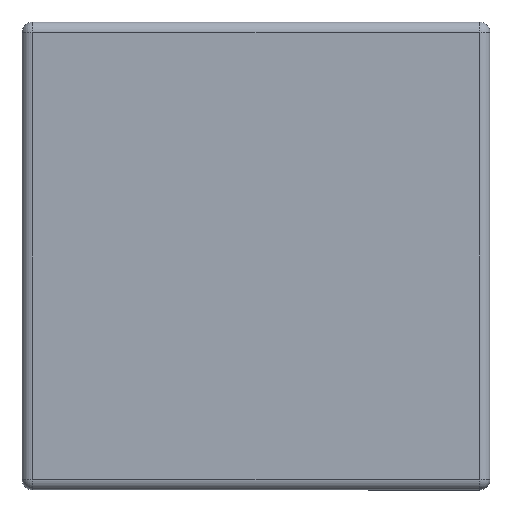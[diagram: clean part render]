
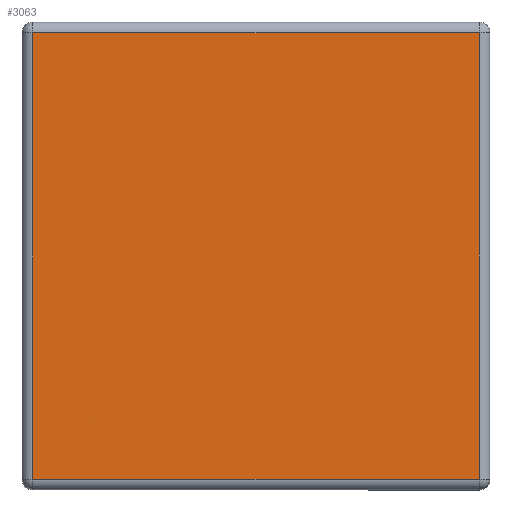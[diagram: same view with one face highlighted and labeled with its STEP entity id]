
A CAD part, left-side view. The second image highlights one B-rep face of the part: STEP entity #3063.
In plain terms, the highlighted planar face has unit normal (-1, 0, 0).
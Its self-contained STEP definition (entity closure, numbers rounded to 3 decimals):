
#27 = EDGE_LOOP ( 'NONE', ( #4802, #4930, #5082, #1816 ) ) ;
#102 = CARTESIAN_POINT ( 'NONE',  ( 0., 42., 44. ) ) ;
#230 = CARTESIAN_POINT ( 'NONE',  ( 0., 42., -42. ) ) ;
#434 = DIRECTION ( 'NONE',  ( 1., 0., 0. ) ) ;
#457 = PLANE ( 'NONE',  #3267 ) ;
#664 = CARTESIAN_POINT ( 'NONE',  ( 0., -42., -42. ) ) ;
#933 = DIRECTION ( 'NONE',  ( 0., 0., -1. ) ) ;
#1031 = CARTESIAN_POINT ( 'NONE',  ( 0., -42., 44. ) ) ;
#1255 = VECTOR ( 'NONE', #2149, 1000. ) ;
#1638 = EDGE_CURVE ( 'NONE', #3405, #2983, #4970, .T. ) ;
#1816 = ORIENTED_EDGE ( 'NONE', *, *, #1638, .T. ) ;
#2149 = DIRECTION ( 'NONE',  ( 0., 1., 0. ) ) ;
#2808 = FACE_OUTER_BOUND ( 'NONE', #27, .T. ) ;
#2983 = VERTEX_POINT ( 'NONE', #230 ) ;
#3063 = ADVANCED_FACE ( 'NONE', ( #2808 ), #457, .F. ) ;
#3218 = CARTESIAN_POINT ( 'NONE',  ( 0., -44., -42. ) ) ;
#3267 = AXIS2_PLACEMENT_3D ( 'NONE', #5169, #434, #4332 ) ;
#3371 = EDGE_CURVE ( 'NONE', #3484, #3881, #4976, .T. ) ;
#3375 = CARTESIAN_POINT ( 'NONE',  ( 0., -42., 42. ) ) ;
#3405 = VERTEX_POINT ( 'NONE', #5378 ) ;
#3426 = CARTESIAN_POINT ( 'NONE',  ( 0., -44., 42. ) ) ;
#3484 = VERTEX_POINT ( 'NONE', #664 ) ;
#3530 = LINE ( 'NONE', #3426, #1255 ) ;
#3535 = VECTOR ( 'NONE', #3603, 1000. ) ;
#3603 = DIRECTION ( 'NONE',  ( 0., 0., 1. ) ) ;
#3782 = LINE ( 'NONE', #3218, #5384 ) ;
#3881 = VERTEX_POINT ( 'NONE', #3375 ) ;
#4058 = EDGE_CURVE ( 'NONE', #3881, #3405, #3530, .T. ) ;
#4074 = DIRECTION ( 'NONE',  ( 0., -1., 0. ) ) ;
#4287 = EDGE_CURVE ( 'NONE', #2983, #3484, #3782, .T. ) ;
#4332 = DIRECTION ( 'NONE',  ( 0., 0., -1. ) ) ;
#4802 = ORIENTED_EDGE ( 'NONE', *, *, #4287, .T. ) ;
#4930 = ORIENTED_EDGE ( 'NONE', *, *, #3371, .T. ) ;
#4970 = LINE ( 'NONE', #102, #5594 ) ;
#4976 = LINE ( 'NONE', #1031, #3535 ) ;
#5082 = ORIENTED_EDGE ( 'NONE', *, *, #4058, .T. ) ;
#5169 = CARTESIAN_POINT ( 'NONE',  ( 0., -44., 44. ) ) ;
#5378 = CARTESIAN_POINT ( 'NONE',  ( 0., 42., 42. ) ) ;
#5384 = VECTOR ( 'NONE', #4074, 1000. ) ;
#5594 = VECTOR ( 'NONE', #933, 1000. ) ;
